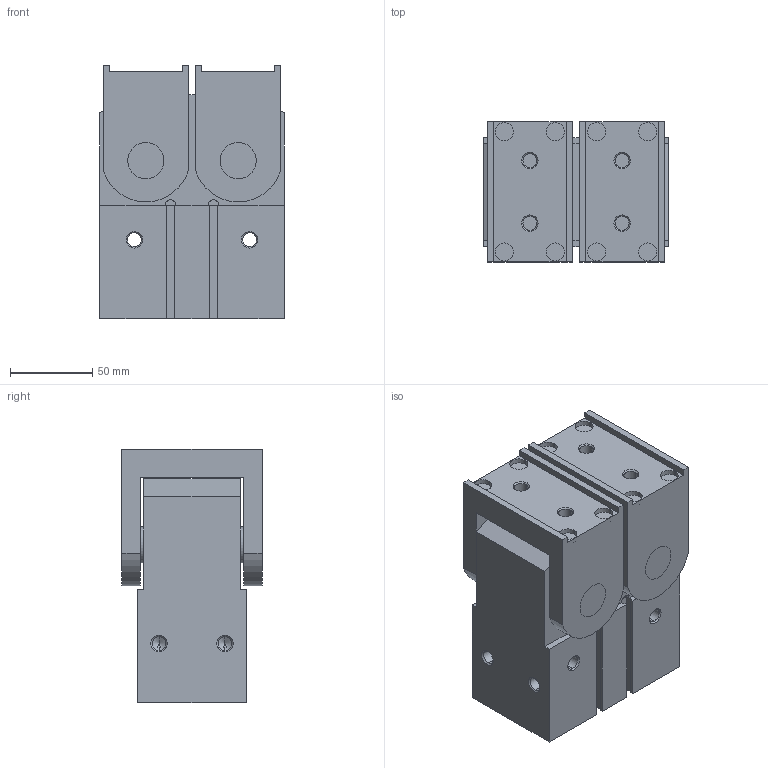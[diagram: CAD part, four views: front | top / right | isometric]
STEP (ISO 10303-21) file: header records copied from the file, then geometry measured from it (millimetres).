
FILE_DESCRIPTION (( 'STEP AP203' ), '1' );
FILE_NAME ('CHW2-50D.STEP', '2020-04-03T10:16:24', ( '' ), ( '' ), 'SwSTEP 2.0', 'SolidWorks 2019', '' );
FILE_SCHEMA (( 'CONFIG_CONTROL_DESIGN' ));
Length unit declared in the file: millimetre
Products named in the file (1): CHW2-50D
Bounding box: 112 x 85 x 154 mm (x, y, z)
Volume: 1157591.2 mm3; surface area: 134762.7 mm2
Topology: 3 solids, 3 shells, 225 faces, 542 edges, 334 vertices
Faces by surface type: plane 97, cylinder 80, cone 48
Entity records: 6549 total; most frequent: DIRECTION 1178, CARTESIAN_POINT 1090, ORIENTED_EDGE 1060, EDGE_CURVE 530, AXIS2_PLACEMENT_3D 422, LINE 334, VERTEX_POINT 334, VECTOR 334
